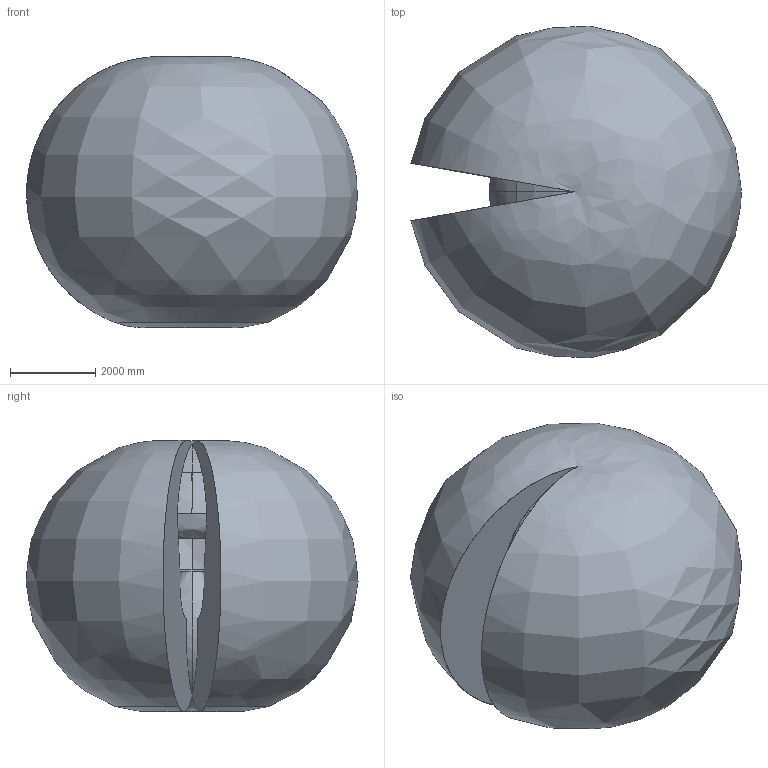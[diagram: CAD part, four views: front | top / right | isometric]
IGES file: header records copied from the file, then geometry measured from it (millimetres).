
Start section: SolidWorks IGES file using analytic representation for surfaces
Global section: file name: C:\Data\SAP_DOC\IRB6740_lightweight\6750S\IRB 6750S ASM\IRB6750S-LID-SW_185kg-390_OC_01_SW_J\IRB6750S-LID-SW_185kg-390_OC_01_IGES_J\IRB6750S-LID_185kg-390_OC_00_Working-envelope.igs; native system: SolidWorks 2024; preprocessor: SolidWorks 2024; author: SEJAOLS6; date: 260513.074103; units: millimetre
Bounding box: 7745.31 x 7773.77 x 6348.25 mm (x, y, z)
Surface area: 240618757.3 mm2 (no closed solid volume)
Topology: 0 solids, 0 shells, 23 faces, 578 edges, 566 vertices
Faces by surface type: bspline 23
